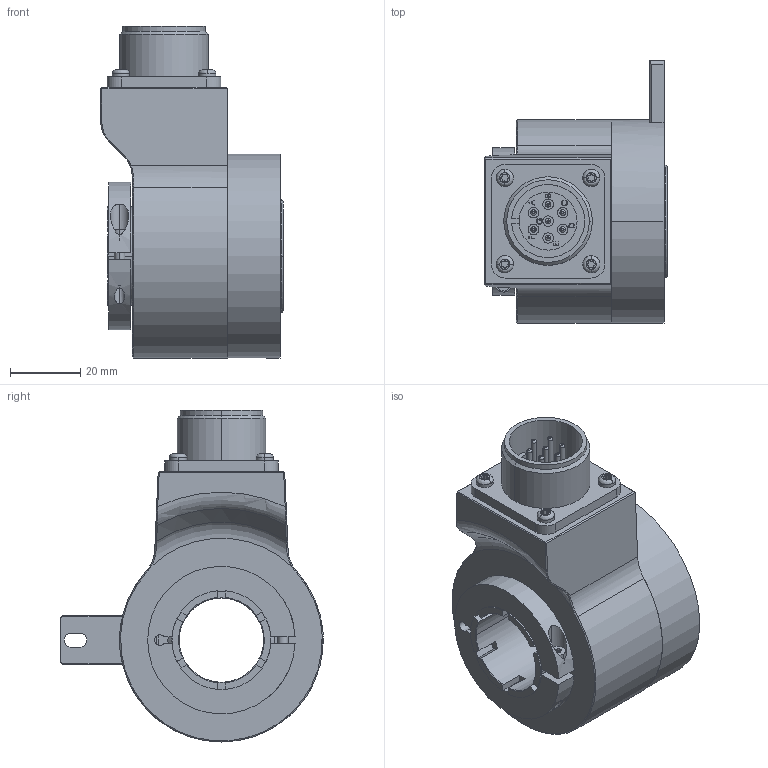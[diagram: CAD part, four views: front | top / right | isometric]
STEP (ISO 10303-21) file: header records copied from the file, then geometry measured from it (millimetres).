
FILE_DESCRIPTION (( 'STEP AP203' ), '1' );
FILE_NAME ('K58I.OXX.XXXXX.XC17524.XXRCD .step', '2025-12-03T07:57:48', ( '' ), ( '' ), 'SwSTEP 2.0', 'SolidWorks 2021', '' );
FILE_SCHEMA (( 'CONFIG_CONTROL_DESIGN' ));
Length unit declared in the file: millimetre
Products named in the file (1): K58I.OXX.XXXXX.XC17524.XXRCD 
Bounding box: 51.9 x 74.75 x 94.5 mm (x, y, z)
Volume: 130665.7 mm3; surface area: 45956.8 mm2
Topology: 7 solids, 7 shells, 525 faces, 1322 edges, 847 vertices
Faces by surface type: cylinder 205, plane 205, bspline 50, cone 45, torus 20
Entity records: 19671 total; most frequent: CARTESIAN_POINT 7023, ORIENTED_EDGE 2620, DIRECTION 2612, EDGE_CURVE 1310, AXIS2_PLACEMENT_3D 966, VERTEX_POINT 847, VECTOR 680, LINE 680
